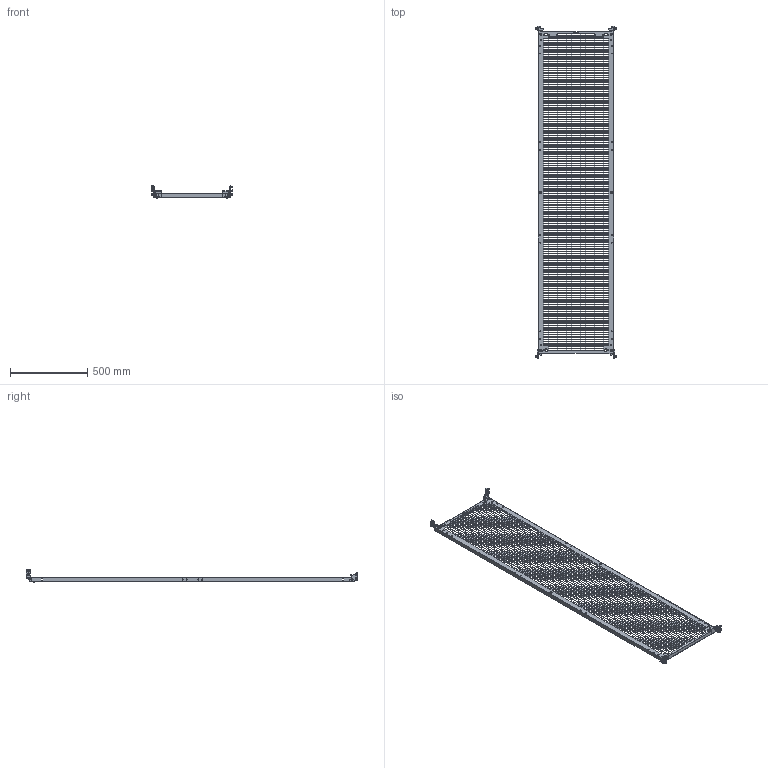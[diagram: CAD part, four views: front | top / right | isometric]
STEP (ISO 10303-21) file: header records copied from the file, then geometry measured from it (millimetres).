
FILE_DESCRIPTION (( 'STEP AP203' ), '1' );
FILE_NAME ('R5NPCEP2260.STEP', '2025-03-26T11:06:45', ( '' ), ( '' ), 'SwSTEP 2.0', 'SolidWorks 2022', '' );
FILE_SCHEMA (( 'CONFIG_CONTROL_DESIGN' ));
Length unit declared in the file: millimetre
Products named in the file (20): RB.2684.00.01.0_-01; M6 MGR-MKO-0625_1,5mm (thread); R5NPCEP2260; RB.2684.00.00.0 СБ; RB.2814.00.01.0; RB.2684.00.00.0 СБ_-01; 003-006-19 GOST 9833-73; RB.2814.00.00.0 СБ_-01; RB.1499.00.03.0; M6x16 DIN 7985 Torx cl.8,8 Zinc_stright; RB.2814.00.01.0_-01; AC00C237; RB.2684.00.01.0; RB.2709.00.00.0; M6x16 DIN 912 HX cl.4,8 Zinc_thread; RB.2684.00.03.0; RB.2697.00.00.0; М6 D87181 Zinc_In a tightened position (1.5 mm); RB.2628.00.00.0_-32; RB.2814.00.00.0 СБ
Assembly tree (43 placements, depth 3):
  R5NPCEP2260
    RB.2628.00.00.0_-32
    RB.2814.00.00.0 СБ_-01
      RB.2814.00.01.0_-01
      M6 MGR-MKO-0625_1,5mm (thread)
    RB.2814.00.00.0 СБ
      RB.2814.00.01.0
      M6 MGR-MKO-0625_1,5mm (thread)
    M6x16 DIN 912 HX cl.4,8 Zinc_thread  x2
    AC00C237  x2
    RB.2684.00.00.0 СБ_-01
      RB.2684.00.01.0_-01
      RB.2684.00.03.0
      RB.1499.00.03.0
      RB.2697.00.00.0
      003-006-19 GOST 9833-73  x2
    RB.2684.00.00.0 СБ
      RB.2684.00.01.0
      RB.2684.00.03.0
      RB.1499.00.03.0
      003-006-19 GOST 9833-73  x2
      RB.2697.00.00.0
    M6x16 DIN 7985 Torx cl.8,8 Zinc_stright  x8
    М6 D87181 Zinc_In a tightened position (1.5 mm)  x8
    RB.2709.00.00.0  x2
Bounding box: 528.3 x 2150.46 x 84.5 mm (x, y, z)
Volume: 1773147 mm3; surface area: 1792517.9 mm2
Topology: 39 solids, 39 shells, 9899 faces, 28941 edges, 19051 vertices
Faces by surface type: plane 8758, cylinder 514, bspline 301, cone 186, torus 132, sphere 8
Full cylindrical faces by diameter (mm): 0.6 x12, 2.3 x4, 2.5 x4, 3.8 x6, 4 x2, 4.2 x4, 4.92 x14, 5 x16, 6 x60, 6.5 x8, 6.7 x2, 7 x12, 7.5 x2, 8 x4, 8.3 x8, 9 x6, 10 x4, 12 x26, 15 x6
Entity records: 290727 total; most frequent: CARTESIAN_POINT 54335, ORIENTED_EDGE 49764, DIRECTION 42043, EDGE_CURVE 24882, VECTOR 24253, LINE 24253, VERTEX_POINT 16656, EDGE_LOOP 12670
